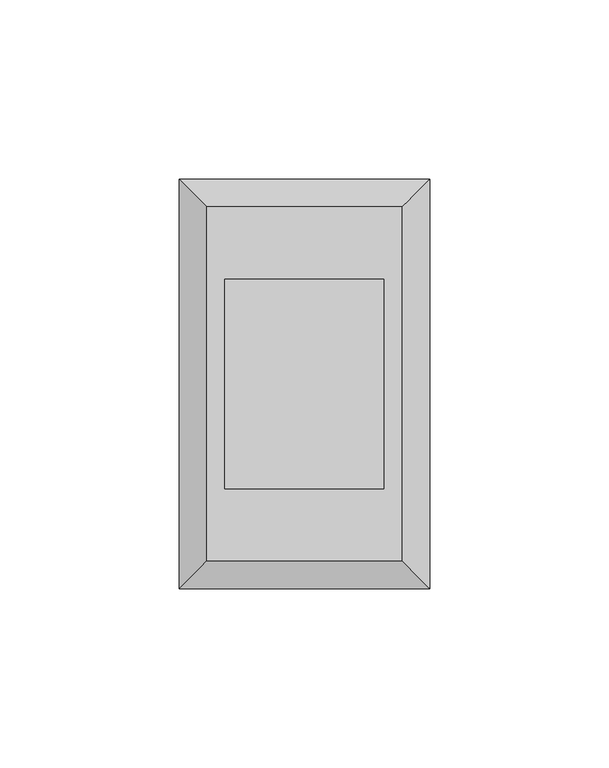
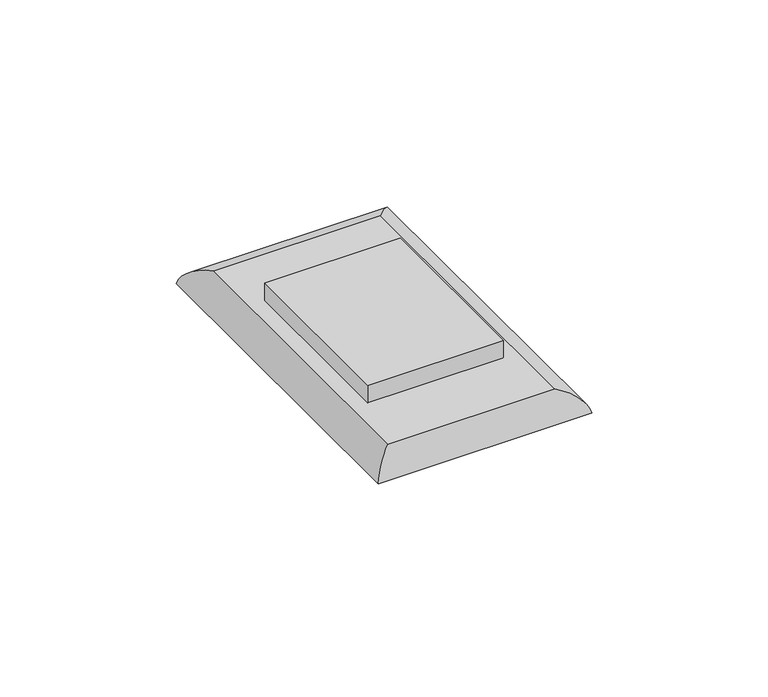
"""IFC4 building model written with IfcOpenShell, lengths in millimetres: proxy geometry, Cover_Plate-Wall-Pass_And_Seymour-Steel_Covers : Vertical, Toggle, Single."""

from ifc_helpers import new_model, si_unit, frame, origin, place, context, project, spatial, polyline, ellipse_curve, outline, extrude, source, transform, mapped, element, save
from ifc_brep_helpers import plane_surface, cylinder_surface, advanced_brep


def electrical_fixtures_d2f4d0e3(model_context):
    return source(origin(), model_context, "Body", "SolidModel", [
        advanced_brep(
        [(-27.305, -49.53, 6.35), (-34.925, -57.15, 0.0), (34.925, -57.15, 0.0), (27.305, -49.53, 6.35), (-27.305, 49.53, 6.35), (-34.925, 57.15, 0.0), (27.305, 49.53, 6.35), (34.925, 57.15, 0.0)],
        [
            (0, 1, ellipse_curve(frame((-27.305, -49.53, -1.397), z_axis=(0.7071067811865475, -0.7071067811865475, 0.0), x_axis=(-0.7071067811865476, -0.7071067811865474, 0.0)), 10.9559125, 7.747)),
            (1, 2),
            (2, 3, ellipse_curve(frame((27.305, -49.53, -1.397), z_axis=(-0.7071067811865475, -0.7071067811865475, 0.0), x_axis=(-0.7071067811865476, 0.7071067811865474, 0.0)), 10.9559125, 7.747)),
            (3, 0),
            (0, 4),
            (4, 5, ellipse_curve(frame((-27.305, 49.53, -1.397), z_axis=(-0.7071067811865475, -0.7071067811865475, 0.0), x_axis=(-0.7071067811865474, 0.7071067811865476, 0.0)), 10.9559125, 7.747)),
            (5, 1),
            (4, 6),
            (6, 7, ellipse_curve(frame((27.305, 49.53, -1.397), z_axis=(-0.7071067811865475, 0.7071067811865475, 0.0), x_axis=(0.7071067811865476, 0.7071067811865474, 0.0)), 10.9559125, 7.747)),
            (7, 5),
            (2, 7),
            (6, 3),
        ],
        [
            cylinder_surface(frame((34.925, -49.53, -1.397), z_axis=(-1.0, 0.0, 0.0), x_axis=(0.0, -1.0, 0.0)), 7.747),
            cylinder_surface(frame((-27.305, -57.15, -1.397), z_axis=(0.0, 1.0, 0.0), x_axis=(-1.0, 0.0, 0.0)), 7.747),
            cylinder_surface(frame((-34.925, 49.53, -1.397), z_axis=(1.0, 0.0, 0.0), x_axis=(0.0, 1.0, 0.0)), 7.747),
            cylinder_surface(frame((27.305, 57.15, -1.397), z_axis=(0.0, -1.0, 0.0), x_axis=(1.0, 0.0, 0.0)), 7.747),
            plane_surface(frame((-34.925, 57.15, 6.35), z_axis=(0.0, 0.0, 1.0), x_axis=(-1.0, 0.0, 0.0))),
            plane_surface(frame((-34.925, 57.15, 0.0), z_axis=(0.0, 0.0, -1.0), x_axis=(1.0, 0.0, 0.0))),
        ],
        [
            (0, [[1, 2, 3, 4]]),
            (1, [[-1, 5, 6, 7]]),
            (2, [[-6, 8, 9, 10]]),
            (3, [[-3, 11, -9, 12]]),
            (4, [[-4, -12, -8, -5]]),
            (5, [[-2, -7, -10, -11]]),
        ],
    ),
        extrude(outline(polyline([(22.225, 29.1719), (22.225, -29.1719), (-22.225, -29.1719), (-22.225, 29.1719), (22.225, 29.1719)])), frame((0.0, 0.0, 6.35), z_axis=(0.0, 0.0, 1.0), x_axis=(1.0, 0.0, 0.0)), (0.0, 0.0, 1.0), 6.35),
        extrude(outline(polyline([(21.844, 35.179), (21.844, -35.179), (-21.844, -35.179), (-21.844, 35.179), (21.844, 35.179)])), frame((0.0, 0.0, -12.7), z_axis=(0.0, 0.0, 1.0), x_axis=(1.0, 0.0, 0.0)), (0.0, 0.0, 1.0), 12.7),
    ])


if __name__ == "__main__":
    model = new_model("IFC4")
    model_context = context("Model", 3, world=origin())
    ifc_project = project(units=[si_unit("LENGTHUNIT", "METRE", prefix="MILLI")], contexts=[model_context])
    site = spatial("IfcSite", under=ifc_project)
    building = spatial("IfcBuilding", under=site)
    placement = place(None, origin())
    electrical_fixtures_shape = electrical_fixtures_d2f4d0e3(model_context)
    element("IfcBuildingElementProxy", 1, Name="Cover_Plate-Wall-Pass_And_Seymour-Steel_Covers : Vertical, Toggle, Single", ObjectType="Cover_Plate-Wall-Pass_And_Seymour-Steel_Covers : Vertical, Toggle, Single", at=placement, inside=building, context=model_context, shape_type="MappedRepresentation", body=[
        mapped(electrical_fixtures_shape, transform((0.0, 0.0, 0.0), x_axis=(1.0, 0.0, 0.0), y_axis=(0.0, 1.0, 0.0), z_axis=(0.0, 0.0, 1.0))),
    ])
    save(model, "model.ifc")
